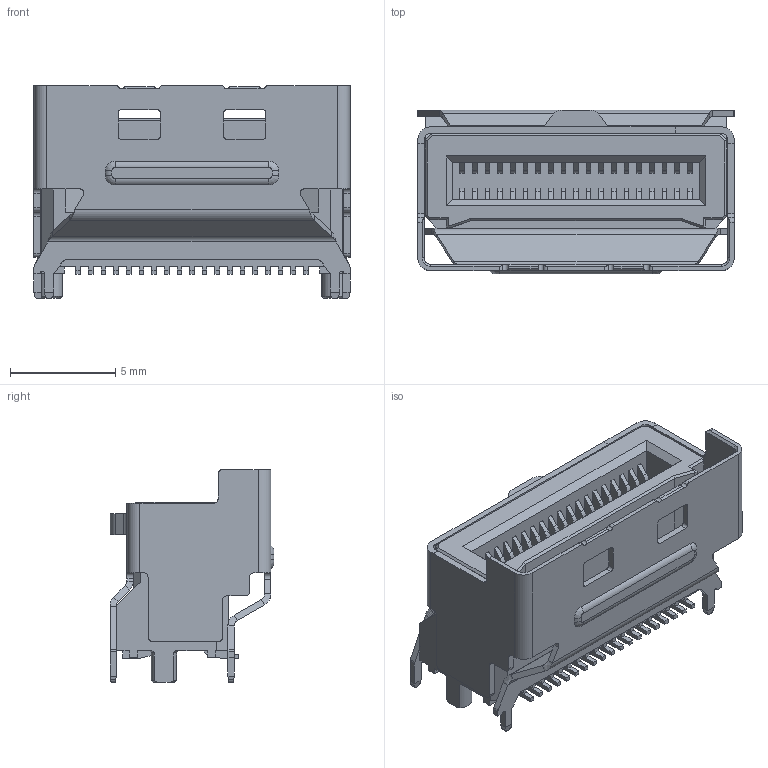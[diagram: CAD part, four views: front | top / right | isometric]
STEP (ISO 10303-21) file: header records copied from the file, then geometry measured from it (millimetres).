
FILE_DESCRIPTION((''),'2;1');
FILE_NAME('PMC038-3X0X-X0X-XH_CUSTOMER_4','2026-07-20T13:46:42',('39002408'),(''),'CREO PARAMETRIC BY PTC INC, 2019471','CREO PARAMETRIC BY PTC INC, 2019471','');
FILE_SCHEMA(('AUTOMOTIVE_DESIGN { 1 0 10303 214 1 1 1 1 }'));
Length unit declared in the file: millimetre
Products named in the file (1): PMC038-3X0X-X0X-XH_CUSTOMER_4
Bounding box: 15 x 7.77 x 10.1 mm (x, y, z)
Volume: 461.6 mm3; surface area: 1264.5 mm2
Topology: 1 solids, 1 shells, 807 faces, 2185 edges, 1436 vertices
Faces by surface type: plane 577, cylinder 200, bspline 12, extrusion 12, cone 6
Entity records: 25895 total; most frequent: CARTESIAN_POINT 5093, ORIENTED_EDGE 4370, DIRECTION 4075, EDGE_CURVE 2185, VECTOR 1709, LINE 1697, VERTEX_POINT 1436, AXIS2_PLACEMENT_3D 1183
